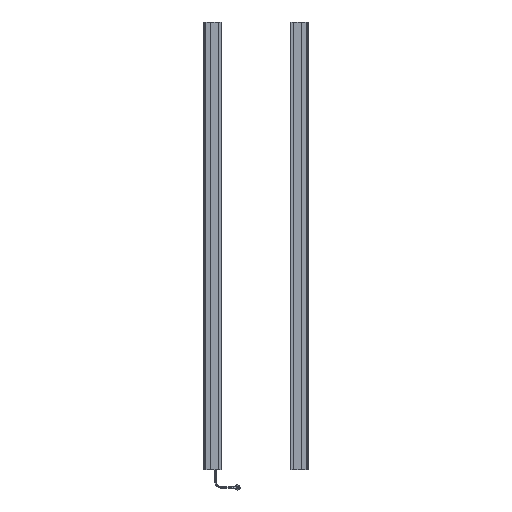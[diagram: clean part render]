
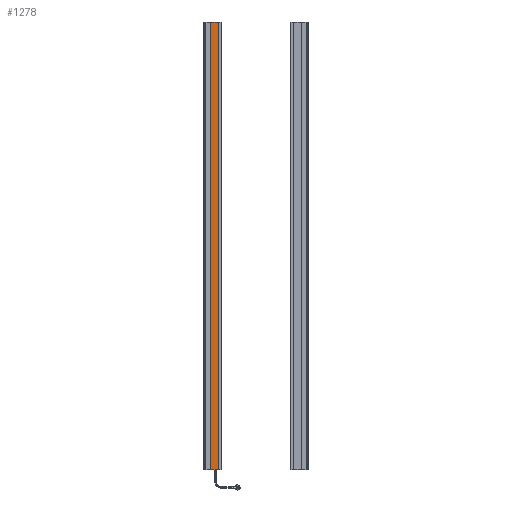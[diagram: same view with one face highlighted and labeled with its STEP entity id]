
A CAD part, front view. The second image highlights one B-rep face of the part: STEP entity #1278.
In plain terms, the highlighted planar face has unit normal (0, -1, 0).
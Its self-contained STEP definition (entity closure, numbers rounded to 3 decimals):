
#68 = ORIENTED_EDGE ( 'NONE', *, *, #1005, .T. ) ;
#69 = ORIENTED_EDGE ( 'NONE', *, *, #1084, .F. ) ;
#70 = ORIENTED_EDGE ( 'NONE', *, *, #464, .F. ) ;
#71 = ORIENTED_EDGE ( 'NONE', *, *, #1091, .T. ) ;
#464 = EDGE_CURVE ( 'NONE', #2419, #2620, #3411, .T. ) ;
#615 = AXIS2_PLACEMENT_3D ( 'NONE', #2800, #2806, #2807 ) ;
#960 = EDGE_LOOP ( 'NONE', ( #68, #69, #70, #71 ) ) ;
#1005 = EDGE_CURVE ( 'NONE', #2400, #2413, #3528, .T. ) ;
#1084 = EDGE_CURVE ( 'NONE', #2620, #2413, #2011, .T. ) ;
#1091 = EDGE_CURVE ( 'NONE', #2419, #2400, #2025, .T. ) ;
#1278 = ADVANCED_FACE ( 'NONE', ( #1441 ), #2797, .F. ) ;
#1441 = FACE_OUTER_BOUND ( 'NONE', #960, .T. ) ;
#1719 = CARTESIAN_POINT ( 'NONE',  ( -76., -3., 0. ) ) ;
#1732 = CARTESIAN_POINT ( 'NONE',  ( -63., -3., 0. ) ) ;
#1738 = CARTESIAN_POINT ( 'NONE',  ( -76., -3., 750. ) ) ;
#1871 = CARTESIAN_POINT ( 'NONE',  ( -63., -3., 750. ) ) ;
#2011 = LINE ( 'NONE', #3854, #2024 ) ;
#2024 = VECTOR ( 'NONE', #3863, 1000. ) ;
#2025 = LINE ( 'NONE', #3866, #2038 ) ;
#2038 = VECTOR ( 'NONE', #3878, 1000. ) ;
#2400 = VERTEX_POINT ( 'NONE', #1719 ) ;
#2413 = VERTEX_POINT ( 'NONE', #1732 ) ;
#2419 = VERTEX_POINT ( 'NONE', #1738 ) ;
#2553 = DIRECTION ( 'NONE',  ( 1., 0., 0. ) ) ;
#2554 = CARTESIAN_POINT ( 'NONE',  ( -76., -3., 750. ) ) ;
#2620 = VERTEX_POINT ( 'NONE', #1871 ) ;
#2797 = PLANE ( 'NONE',  #615 ) ;
#2800 = CARTESIAN_POINT ( 'NONE',  ( -76., -3., 750. ) ) ;
#2806 = DIRECTION ( 'NONE',  ( 0., 1., 0. ) ) ;
#2807 = DIRECTION ( 'NONE',  ( -1., 0., 0. ) ) ;
#3411 = LINE ( 'NONE', #2554, #3412 ) ;
#3412 = VECTOR ( 'NONE', #2553, 1000. ) ;
#3528 = LINE ( 'NONE', #3690, #3529 ) ;
#3529 = VECTOR ( 'NONE', #3691, 1000. ) ;
#3690 = CARTESIAN_POINT ( 'NONE',  ( -76., -3., 0. ) ) ;
#3691 = DIRECTION ( 'NONE',  ( 1., 0., 0. ) ) ;
#3854 = CARTESIAN_POINT ( 'NONE',  ( -63., -3., 750. ) ) ;
#3863 = DIRECTION ( 'NONE',  ( 0., 0., -1. ) ) ;
#3866 = CARTESIAN_POINT ( 'NONE',  ( -76., -3., 750. ) ) ;
#3878 = DIRECTION ( 'NONE',  ( 0., 0., -1. ) ) ;
